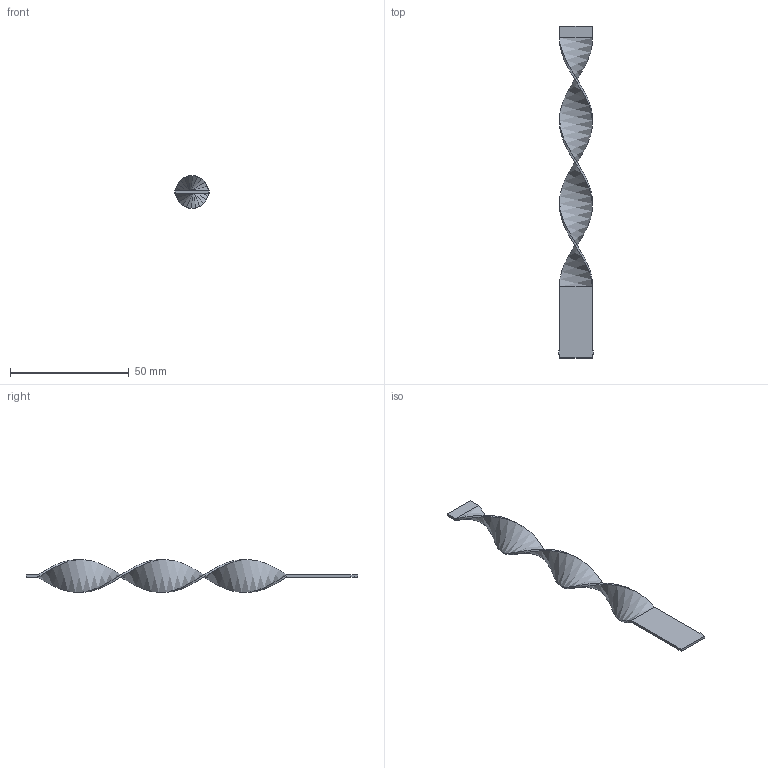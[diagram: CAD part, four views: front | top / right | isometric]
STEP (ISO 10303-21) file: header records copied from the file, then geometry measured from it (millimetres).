
FILE_DESCRIPTION (( 'STEP AP203' ), '1' );
FILE_NAME ('RLAS-16SMx150.STEP', '2015-12-10T14:21:57', ( 'Balzi' ), ( '' ), 'SwSTEP 2.0', 'SolidWorks 2015', '' );
FILE_SCHEMA (( 'CONFIG_CONTROL_DESIGN' ));
Length unit declared in the file: millimetre
Products named in the file (1): RLAS-16SMx150
Bounding box: 14.4 x 140 x 13.81 mm (x, y, z)
Volume: 1933.5 mm3; surface area: 4352.3 mm2
Topology: 1 solids, 1 shells, 22 faces, 52 edges, 32 vertices
Faces by surface type: plane 18, bspline 4
Entity records: 1749 total; most frequent: CARTESIAN_POINT 1203, ORIENTED_EDGE 104, DIRECTION 82, EDGE_CURVE 52, LINE 44, VECTOR 44, VERTEX_POINT 32, FACE_OUTER_BOUND 22
